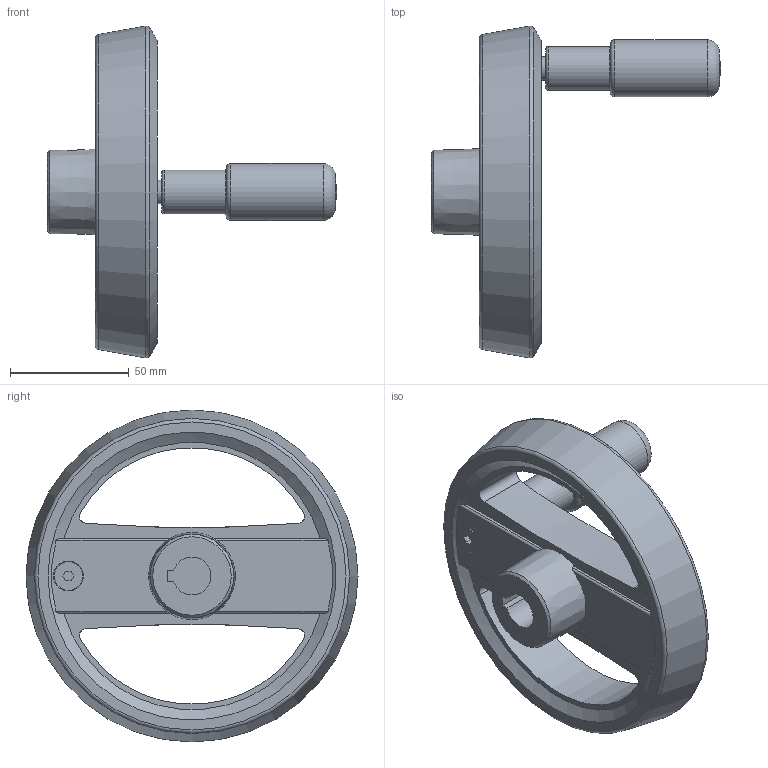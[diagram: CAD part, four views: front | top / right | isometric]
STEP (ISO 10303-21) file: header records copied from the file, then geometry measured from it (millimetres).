
FILE_DESCRIPTION( ( 'STEP AP203' ), '1' );
FILE_NAME( 'C:/Temp/Ganter_Step_05_03_2020/data/1_3/gn_924_3/gn_924_3_b/Handwheel with retractable handle GN 924.3-140-B16-R-SR (activated).stp', '2020-03-05T10:40:52', ( 'License CC BY-ND 4.0' ), ( 'CADENAS' ), ' ', 'PARTsolutions', ' ' );
FILE_SCHEMA( ( 'CONFIG_CONTROL_DESIGN' ) );
Length unit declared in the file: millimetre
Products named in the file (3): Handwheel with retractable handle GN 924.3-140-B16-R-SR (activated); _Umleggriff-Handrad GN 924.3-140-B16-R-SR-1; _Umleggriff-Handrad GN 924.3-140-B16-R-SR-2
Assembly tree (2 placements, depth 2):
  Handwheel with retractable handle GN 924.3-140-B16-R-SR (activated)
    _Umleggriff-Handrad GN 924.3-140-B16-R-SR-1
    _Umleggriff-Handrad GN 924.3-140-B16-R-SR-2
Bounding box: 121.7 x 139.68 x 139.68 mm (x, y, z)
Volume: 221816.1 mm3; surface area: 56414.4 mm2
Topology: 2 solids, 2 shells, 104 faces, 264 edges, 169 vertices
Faces by surface type: plane 49, cylinder 36, cone 10, torus 7, sphere 2
Full cylindrical faces by diameter (mm): 4 x4, 5 x1, 10 x1, 12 x1, 18.5 x1, 20 x1, 24 x1, 25 x1, 25.6 x1
Entity records: 3383 total; most frequent: CARTESIAN_POINT 930, DIRECTION 486, ORIENTED_EDGE 448, EDGE_CURVE 224, AXIS2_PLACEMENT_3D 193, VERTEX_POINT 162, EDGE_LOOP 147, FACE_OUTER_BOUND 123
